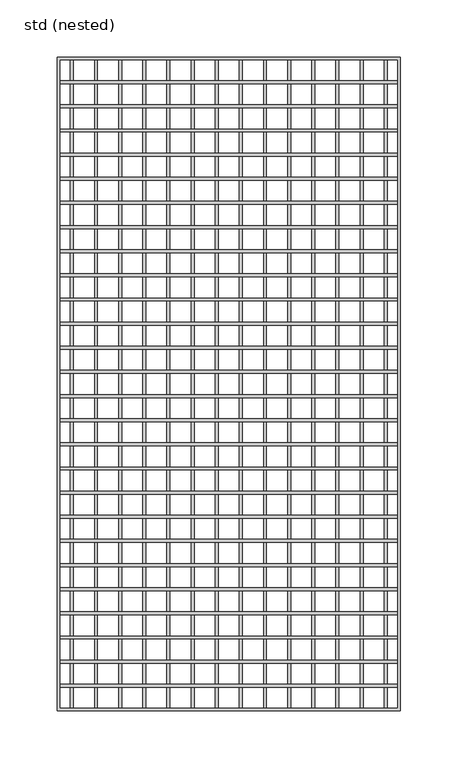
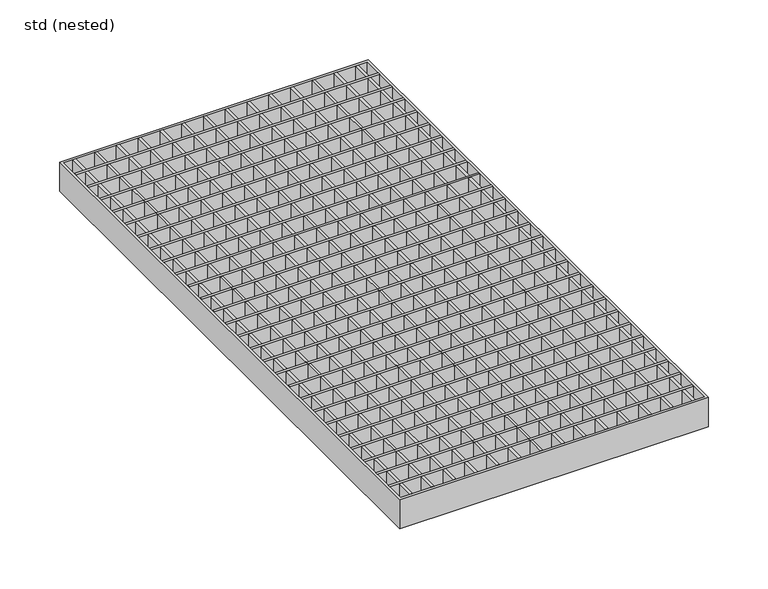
"""IFC4 building model written with IfcOpenShell, lengths in millimetres: sanitary terminal geometry, ZZZ_do not use_PF_ST_UN_grating for box channel_ACO : std (nested)."""

from ifc_helpers import new_model, si_unit, frame, origin, place, context, project, spatial, polyline, outline, extrude, source, transform, mapped, element, save


def std_nested_275415f7(model_context):
    return source(origin(), model_context, "Body", "SweptSolid", [
        extrude(outline(polyline([(146.5, -263.75), (-146.5, -263.75), (-146.5, -261.25), (146.5, -261.25), (146.5, -263.75)])), frame((0.0, 0.0, -20.0), z_axis=(0.0, 0.0, 1.0), x_axis=(1.0, 0.0, 0.0)), (0.0, 0.0, 1.0), 20.0),
        extrude(outline(polyline([(146.5, -242.75), (-146.5, -242.75), (-146.5, -240.25), (146.5, -240.25), (146.5, -242.75)])), frame((0.0, 0.0, -20.0), z_axis=(0.0, 0.0, 1.0), x_axis=(1.0, 0.0, 0.0)), (0.0, 0.0, 1.0), 20.0),
        extrude(outline(polyline([(146.5, -221.75), (-146.5, -221.75), (-146.5, -219.25), (146.5, -219.25), (146.5, -221.75)])), frame((0.0, 0.0, -20.0), z_axis=(0.0, 0.0, 1.0), x_axis=(1.0, 0.0, 0.0)), (0.0, 0.0, 1.0), 20.0),
        extrude(outline(polyline([(146.5, -200.75), (-146.5, -200.75), (-146.5, -198.25), (146.5, -198.25), (146.5, -200.75)])), frame((0.0, 0.0, -20.0), z_axis=(0.0, 0.0, 1.0), x_axis=(1.0, 0.0, 0.0)), (0.0, 0.0, 1.0), 20.0),
        extrude(outline(polyline([(146.5, -179.75), (-146.5, -179.75), (-146.5, -177.25), (146.5, -177.25), (146.5, -179.75)])), frame((0.0, 0.0, -20.0), z_axis=(0.0, 0.0, 1.0), x_axis=(1.0, 0.0, 0.0)), (0.0, 0.0, 1.0), 20.0),
        extrude(outline(polyline([(146.5, 263.75), (146.5, 261.25), (-146.5, 261.25), (-146.5, 263.75), (146.5, 263.75)])), frame((0.0, 0.0, -20.0), z_axis=(0.0, 0.0, 1.0), x_axis=(1.0, 0.0, 0.0)), (0.0, 0.0, 1.0), 20.0),
        extrude(outline(polyline([(146.5, 242.75), (146.5, 240.25), (-146.5, 240.25), (-146.5, 242.75), (146.5, 242.75)])), frame((0.0, 0.0, -20.0), z_axis=(0.0, 0.0, 1.0), x_axis=(1.0, 0.0, 0.0)), (0.0, 0.0, 1.0), 20.0),
        extrude(outline(polyline([(146.5, 221.75), (146.5, 219.25), (-146.5, 219.25), (-146.5, 221.75), (146.5, 221.75)])), frame((0.0, 0.0, -20.0), z_axis=(0.0, 0.0, 1.0), x_axis=(1.0, 0.0, 0.0)), (0.0, 0.0, 1.0), 20.0),
        extrude(outline(polyline([(146.5, 200.75), (146.5, 198.25), (-146.5, 198.25), (-146.5, 200.75), (146.5, 200.75)])), frame((0.0, 0.0, -20.0), z_axis=(0.0, 0.0, 1.0), x_axis=(1.0, 0.0, 0.0)), (0.0, 0.0, 1.0), 20.0),
        extrude(outline(polyline([(146.5, 179.75), (146.5, 177.25), (-146.5, 177.25), (-146.5, 179.75), (146.5, 179.75)])), frame((0.0, 0.0, -20.0), z_axis=(0.0, 0.0, 1.0), x_axis=(1.0, 0.0, 0.0)), (0.0, 0.0, 1.0), 20.0),
        extrude(outline(polyline([(146.5, -158.75), (-146.5, -158.75), (-146.5, -156.25), (146.5, -156.25), (146.5, -158.75)])), frame((0.0, 0.0, -20.0), z_axis=(0.0, 0.0, 1.0), x_axis=(1.0, 0.0, 0.0)), (0.0, 0.0, 1.0), 20.0),
        extrude(outline(polyline([(146.5, -137.75), (-146.5, -137.75), (-146.5, -135.25), (146.5, -135.25), (146.5, -137.75)])), frame((0.0, 0.0, -20.0), z_axis=(0.0, 0.0, 1.0), x_axis=(1.0, 0.0, 0.0)), (0.0, 0.0, 1.0), 20.0),
        extrude(outline(polyline([(146.5, -116.75), (-146.5, -116.75), (-146.5, -114.25), (146.5, -114.25), (146.5, -116.75)])), frame((0.0, 0.0, -20.0), z_axis=(0.0, 0.0, 1.0), x_axis=(1.0, 0.0, 0.0)), (0.0, 0.0, 1.0), 20.0),
        extrude(outline(polyline([(146.5, -95.75), (-146.5, -95.75), (-146.5, -93.25), (146.5, -93.25), (146.5, -95.75)])), frame((0.0, 0.0, -20.0), z_axis=(0.0, 0.0, 1.0), x_axis=(1.0, 0.0, 0.0)), (0.0, 0.0, 1.0), 20.0),
        extrude(outline(polyline([(146.5, -74.75), (-146.5, -74.75), (-146.5, -72.25), (146.5, -72.25), (146.5, -74.75)])), frame((0.0, 0.0, -20.0), z_axis=(0.0, 0.0, 1.0), x_axis=(1.0, 0.0, 0.0)), (0.0, 0.0, 1.0), 20.0),
        extrude(outline(polyline([(146.5, -53.75), (-146.5, -53.75), (-146.5, -51.25), (146.5, -51.25), (146.5, -53.75)])), frame((0.0, 0.0, -20.0), z_axis=(0.0, 0.0, 1.0), x_axis=(1.0, 0.0, 0.0)), (0.0, 0.0, 1.0), 20.0),
        extrude(outline(polyline([(146.5, -32.75), (-146.5, -32.75), (-146.5, -30.25), (146.5, -30.25), (146.5, -32.75)])), frame((0.0, 0.0, -20.0), z_axis=(0.0, 0.0, 1.0), x_axis=(1.0, 0.0, 0.0)), (0.0, 0.0, 1.0), 20.0),
        extrude(outline(polyline([(146.5, 158.75), (146.5, 156.25), (-146.5, 156.25), (-146.5, 158.75), (146.5, 158.75)])), frame((0.0, 0.0, -20.0), z_axis=(0.0, 0.0, 1.0), x_axis=(1.0, 0.0, 0.0)), (0.0, 0.0, 1.0), 20.0),
        extrude(outline(polyline([(146.5, 137.75), (146.5, 135.25), (-146.5, 135.25), (-146.5, 137.75), (146.5, 137.75)])), frame((0.0, 0.0, -20.0), z_axis=(0.0, 0.0, 1.0), x_axis=(1.0, 0.0, 0.0)), (0.0, 0.0, 1.0), 20.0),
        extrude(outline(polyline([(146.5, 116.75), (146.5, 114.25), (-146.5, 114.25), (-146.5, 116.75), (146.5, 116.75)])), frame((0.0, 0.0, -20.0), z_axis=(0.0, 0.0, 1.0), x_axis=(1.0, 0.0, 0.0)), (0.0, 0.0, 1.0), 20.0),
        extrude(outline(polyline([(146.5, 95.75), (146.5, 93.25), (-146.5, 93.25), (-146.5, 95.75), (146.5, 95.75)])), frame((0.0, 0.0, -20.0), z_axis=(0.0, 0.0, 1.0), x_axis=(1.0, 0.0, 0.0)), (0.0, 0.0, 1.0), 20.0),
        extrude(outline(polyline([(146.5, 74.75), (146.5, 72.25), (-146.5, 72.25), (-146.5, 74.75), (146.5, 74.75)])), frame((0.0, 0.0, -20.0), z_axis=(0.0, 0.0, 1.0), x_axis=(1.0, 0.0, 0.0)), (0.0, 0.0, 1.0), 20.0),
        extrude(outline(polyline([(146.5, 53.75), (146.5, 51.25), (-146.5, 51.25), (-146.5, 53.75), (146.5, 53.75)])), frame((0.0, 0.0, -20.0), z_axis=(0.0, 0.0, 1.0), x_axis=(1.0, 0.0, 0.0)), (0.0, 0.0, 1.0), 20.0),
        extrude(outline(polyline([(146.5, 32.75), (146.5, 30.25), (-146.5, 30.25), (-146.5, 32.75), (146.5, 32.75)])), frame((0.0, 0.0, -20.0), z_axis=(0.0, 0.0, 1.0), x_axis=(1.0, 0.0, 0.0)), (0.0, 0.0, 1.0), 20.0),
        extrude(outline(polyline([(146.5, 11.75), (146.5, 9.25), (-146.5, 9.25), (-146.5, 11.75), (146.5, 11.75)])), frame((0.0, 0.0, -20.0), z_axis=(0.0, 0.0, 1.0), x_axis=(1.0, 0.0, 0.0)), (0.0, 0.0, 1.0), 20.0),
        extrude(outline(polyline([(146.5, -11.75), (-146.5, -11.75), (-146.5, -9.25), (146.5, -9.25), (146.5, -11.75)])), frame((0.0, 0.0, -20.0), z_axis=(0.0, 0.0, 1.0), x_axis=(1.0, 0.0, 0.0)), (0.0, 0.0, 1.0), 20.0),
        extrude(outline(polyline([(-137.75, 281.5), (-135.25, 281.5), (-135.25, -281.5), (-137.75, -281.5), (-137.75, 281.5)])), frame((0.0, 0.0, -20.0), z_axis=(0.0, 0.0, 1.0), x_axis=(1.0, 0.0, 0.0)), (0.0, 0.0, 1.0), 20.0),
        extrude(outline(polyline([(-116.75, 281.5), (-114.25, 281.5), (-114.25, -281.5), (-116.75, -281.5), (-116.75, 281.5)])), frame((0.0, 0.0, -20.0), z_axis=(0.0, 0.0, 1.0), x_axis=(1.0, 0.0, 0.0)), (0.0, 0.0, 1.0), 20.0),
        extrude(outline(polyline([(-95.75, 281.5), (-93.25, 281.5), (-93.25, -281.5), (-95.75, -281.5), (-95.75, 281.5)])), frame((0.0, 0.0, -20.0), z_axis=(0.0, 0.0, 1.0), x_axis=(1.0, 0.0, 0.0)), (0.0, 0.0, 1.0), 20.0),
        extrude(outline(polyline([(-74.75, 281.5), (-72.25, 281.5), (-72.25, -281.5), (-74.75, -281.5), (-74.75, 281.5)])), frame((0.0, 0.0, -20.0), z_axis=(0.0, 0.0, 1.0), x_axis=(1.0, 0.0, 0.0)), (0.0, 0.0, 1.0), 20.0),
        extrude(outline(polyline([(-53.75, 281.5), (-51.25, 281.5), (-51.25, -281.5), (-53.75, -281.5), (-53.75, 281.5)])), frame((0.0, 0.0, -20.0), z_axis=(0.0, 0.0, 1.0), x_axis=(1.0, 0.0, 0.0)), (0.0, 0.0, 1.0), 20.0),
        extrude(outline(polyline([(-32.75, 281.5), (-30.25, 281.5), (-30.25, -281.5), (-32.75, -281.5), (-32.75, 281.5)])), frame((0.0, 0.0, -20.0), z_axis=(0.0, 0.0, 1.0), x_axis=(1.0, 0.0, 0.0)), (0.0, 0.0, 1.0), 20.0),
        extrude(outline(polyline([(137.75, 281.5), (137.75, -281.5), (135.25, -281.5), (135.25, 281.5), (137.75, 281.5)])), frame((0.0, 0.0, -20.0), z_axis=(0.0, 0.0, 1.0), x_axis=(1.0, 0.0, 0.0)), (0.0, 0.0, 1.0), 20.0),
        extrude(outline(polyline([(116.75, 281.5), (116.75, -281.5), (114.25, -281.5), (114.25, 281.5), (116.75, 281.5)])), frame((0.0, 0.0, -20.0), z_axis=(0.0, 0.0, 1.0), x_axis=(1.0, 0.0, 0.0)), (0.0, 0.0, 1.0), 20.0),
        extrude(outline(polyline([(95.75, 281.5), (95.75, -281.5), (93.25, -281.5), (93.25, 281.5), (95.75, 281.5)])), frame((0.0, 0.0, -20.0), z_axis=(0.0, 0.0, 1.0), x_axis=(1.0, 0.0, 0.0)), (0.0, 0.0, 1.0), 20.0),
        extrude(outline(polyline([(74.75, 281.5), (74.75, -281.5), (72.25, -281.5), (72.25, 281.5), (74.75, 281.5)])), frame((0.0, 0.0, -20.0), z_axis=(0.0, 0.0, 1.0), x_axis=(1.0, 0.0, 0.0)), (0.0, 0.0, 1.0), 20.0),
        extrude(outline(polyline([(53.75, 281.5), (53.75, -281.5), (51.25, -281.5), (51.25, 281.5), (53.75, 281.5)])), frame((0.0, 0.0, -20.0), z_axis=(0.0, 0.0, 1.0), x_axis=(1.0, 0.0, 0.0)), (0.0, 0.0, 1.0), 20.0),
        extrude(outline(polyline([(32.75, 281.5), (32.75, -281.5), (30.25, -281.5), (30.25, 281.5), (32.75, 281.5)])), frame((0.0, 0.0, -20.0), z_axis=(0.0, 0.0, 1.0), x_axis=(1.0, 0.0, 0.0)), (0.0, 0.0, 1.0), 20.0),
        extrude(outline(polyline([(-11.75, 281.5), (-9.25, 281.5), (-9.25, -281.5), (-11.75, -281.5), (-11.75, 281.5)])), frame((0.0, 0.0, -20.0), z_axis=(0.0, 0.0, 1.0), x_axis=(1.0, 0.0, 0.0)), (0.0, 0.0, 1.0), 20.0),
        extrude(outline(polyline([(11.75, 281.5), (11.75, -281.5), (9.25, -281.5), (9.25, 281.5), (11.75, 281.5)])), frame((0.0, 0.0, -20.0), z_axis=(0.0, 0.0, 1.0), x_axis=(1.0, 0.0, 0.0)), (0.0, 0.0, 1.0), 20.0),
        extrude(outline(polyline([(149.0, 284.0), (149.0, -284.0), (-149.0, -284.0), (-149.0, 284.0), (149.0, 284.0)]), holes=[polyline([(146.5, 281.5), (-146.5, 281.5), (-146.5, -281.5), (146.5, -281.5), (146.5, 281.5)])]), frame((0.0, 0.0, -30.0), z_axis=(0.0, 0.0, 1.0), x_axis=(1.0, 0.0, 0.0)), (0.0, 0.0, 1.0), 30.0),
    ])


if __name__ == "__main__":
    model = new_model("IFC4")
    model_context = context("Model", 3, world=origin())
    ifc_project = project(units=[si_unit("LENGTHUNIT", "METRE", prefix="MILLI")], contexts=[model_context])
    site = spatial("IfcSite", under=ifc_project)
    building = spatial("IfcBuilding", under=site)
    placement = place(None, origin())
    std_nested_shape = std_nested_275415f7(model_context)
    element("IfcSanitaryTerminal", 1, ObjectType="ZZZ_do not use_PF_ST_UN_grating for box channel_ACO : std (nested)", at=placement, inside=building, context=model_context, shape_type="MappedRepresentation", body=[
        mapped(std_nested_shape, transform((0.0, 0.0, 0.0), x_axis=(1.0, 0.0, 0.0), y_axis=(0.0, 1.0, 0.0), z_axis=(0.0, 0.0, 1.0))),
    ])
    save(model, "model.ifc")
